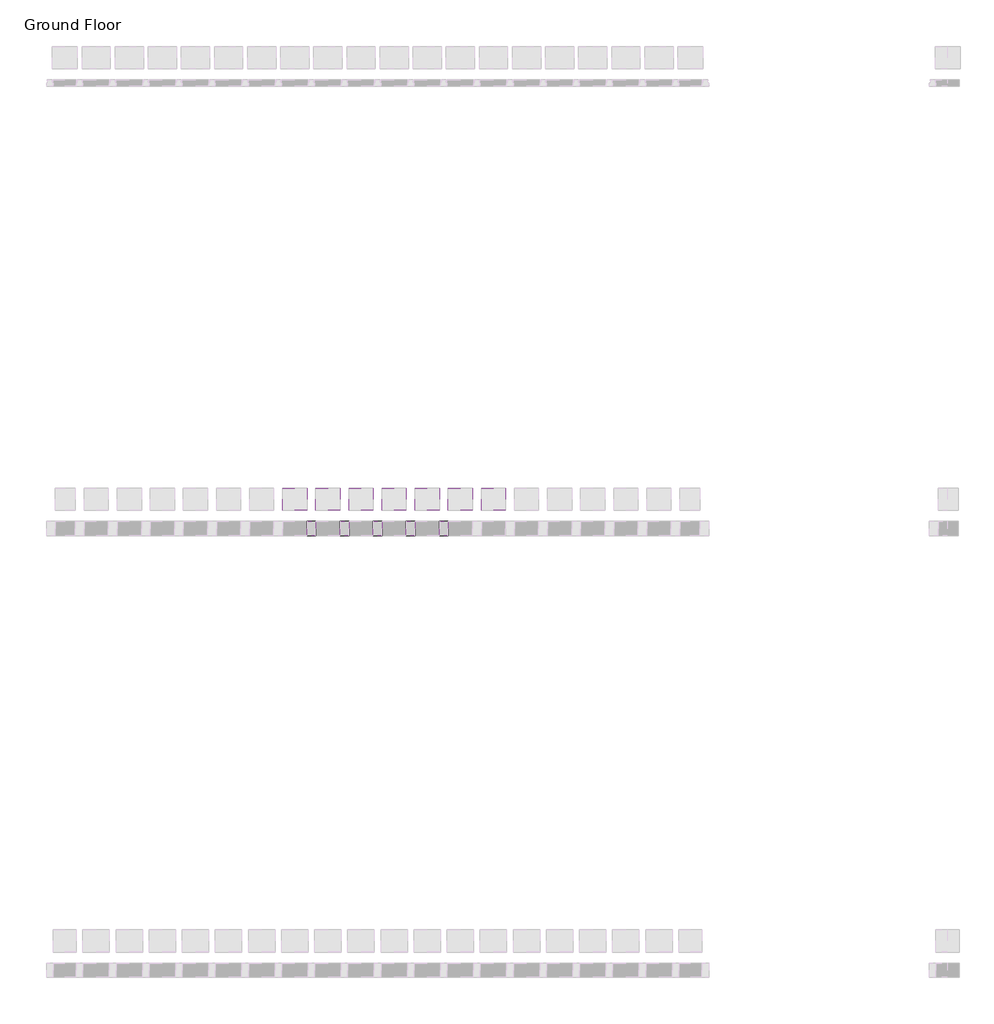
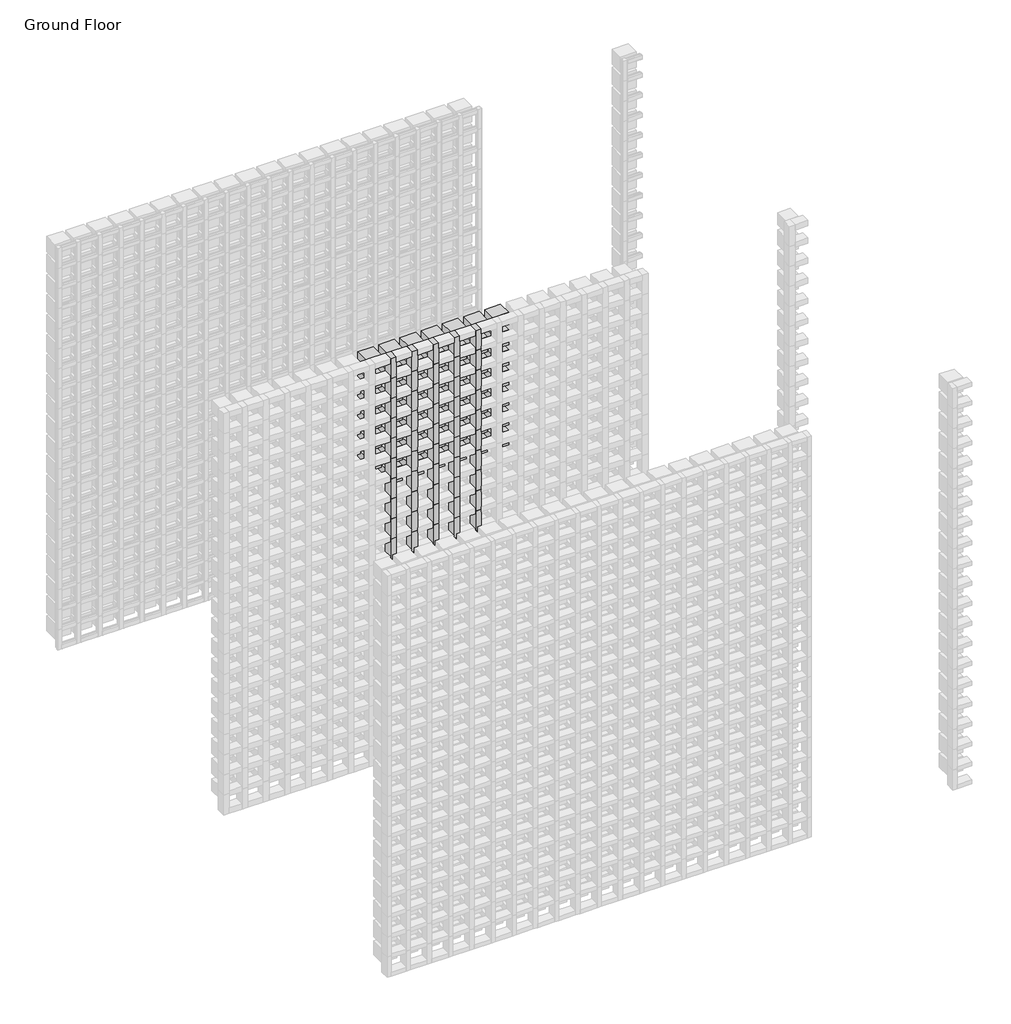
# One storey, part 98 of 350: 95 members, 48 plates.
"""IFC4 building model written with IfcOpenShell, lengths in millimetres."""

from ifc_helpers import new_model, si_unit, origin, place, context, project, spatial, transform, mapped, element, save
from components import rectangular_mullion_655930e9, empty_system_panel_empty_3b500fad, empty_system_panel_empty_1faefc6a

model = new_model("IFC4")

# Units and contexts
model_context = context("Model", 3, world=origin())
ifc_project = project(units=[si_unit("LENGTHUNIT", "METRE", prefix="MILLI")], contexts=[model_context])

# Site, building, storey
site = spatial("IfcSite", under=ifc_project)
building = spatial("IfcBuilding", under=site)
storey = spatial("IfcBuildingStorey", under=building, Name="Ground Floor", Elevation=0.0)

# Members
placement = place(None, origin())
rectangular_mullion_shape = rectangular_mullion_655930e9(model_context)
element("IfcMember", 1, ObjectType="Rectangular Mullion : Batten_Timber_Modinex_Austratus_Grid_Fascia_40x65_Blackbutt", at=placement, inside=storey, context=model_context, shape_type="MappedRepresentation", body=[
    mapped(rectangular_mullion_shape, transform((7116.4361642, 40968.2978302, 150.0), x_axis=(1.0, 0.0, 0.0), y_axis=(0.0, -1.0, 0.0), z_axis=(0.0, 0.0, -1.0))),
])
element("IfcMember", 2, ObjectType="Rectangular Mullion : Batten_Timber_Modinex_Austratus_Grid_Fascia_40x65_Blackbutt", at=placement, inside=storey, context=model_context, shape_type="MappedRepresentation", body=[
    mapped(rectangular_mullion_shape, transform((7116.4361642, 40968.2978302, 300.0), x_axis=(1.0, 0.0, 0.0), y_axis=(0.0, -1.0, 0.0), z_axis=(0.0, 0.0, -1.0))),
])
element("IfcMember", 3, ObjectType="Rectangular Mullion : Batten_Timber_Modinex_Austratus_Grid_Fascia_40x65_Blackbutt", at=placement, inside=storey, context=model_context, shape_type="MappedRepresentation", body=[
    mapped(rectangular_mullion_shape, transform((7116.4361642, 40968.2978302, 450.0), x_axis=(1.0, 0.0, 0.0), y_axis=(0.0, -1.0, 0.0), z_axis=(0.0, 0.0, -1.0))),
])
element("IfcMember", 4, ObjectType="Rectangular Mullion : Batten_Timber_Modinex_Austratus_Grid_Fascia_40x65_Blackbutt", at=placement, inside=storey, context=model_context, shape_type="MappedRepresentation", body=[
    mapped(rectangular_mullion_shape, transform((7116.4361642, 40968.2978302, 600.0), x_axis=(1.0, 0.0, 0.0), y_axis=(0.0, -1.0, 0.0), z_axis=(0.0, 0.0, -1.0))),
])
element("IfcMember", 5, ObjectType="Rectangular Mullion : Batten_Timber_Modinex_Austratus_Grid_Fascia_40x65_Blackbutt", at=placement, inside=storey, context=model_context, shape_type="MappedRepresentation", body=[
    mapped(rectangular_mullion_shape, transform((7116.4361642, 40968.2978302, 750.0), x_axis=(1.0, 0.0, 0.0), y_axis=(0.0, -1.0, 0.0), z_axis=(0.0, 0.0, -1.0))),
])
element("IfcMember", 6, ObjectType="Rectangular Mullion : Batten_Timber_Modinex_Austratus_Grid_Fascia_40x65_Blackbutt", at=placement, inside=storey, context=model_context, shape_type="MappedRepresentation", body=[
    mapped(rectangular_mullion_shape, transform((7116.4361642, 40968.2978302, 900.0), x_axis=(1.0, 0.0, 0.0), y_axis=(0.0, -1.0, 0.0), z_axis=(0.0, 0.0, -1.0))),
])
element("IfcMember", 7, ObjectType="Rectangular Mullion : Batten_Timber_Modinex_Austratus_Grid_Fascia_40x65_Blackbutt", at=placement, inside=storey, context=model_context, shape_type="MappedRepresentation", body=[
    mapped(rectangular_mullion_shape, transform((7116.4361642, 40968.2978302, 1050.0), x_axis=(1.0, 0.0, 0.0), y_axis=(0.0, -1.0, 0.0), z_axis=(0.0, 0.0, -1.0))),
])
element("IfcMember", 8, ObjectType="Rectangular Mullion : Batten_Timber_Modinex_Austratus_Grid_Fascia_40x65_Blackbutt", at=placement, inside=storey, context=model_context, shape_type="MappedRepresentation", body=[
    mapped(rectangular_mullion_shape, transform((7116.4361642, 40968.2978302, 1200.0), x_axis=(1.0, 0.0, 0.0), y_axis=(0.0, -1.0, 0.0), z_axis=(0.0, 0.0, -1.0))),
])
element("IfcMember", 9, ObjectType="Rectangular Mullion : Batten_Timber_Modinex_Austratus_Grid_Fascia_40x65_Blackbutt", at=placement, inside=storey, context=model_context, shape_type="MappedRepresentation", body=[
    mapped(rectangular_mullion_shape, transform((7116.4361642, 40968.2978302, 1350.0), x_axis=(1.0, 0.0, 0.0), y_axis=(0.0, -1.0, 0.0), z_axis=(0.0, 0.0, -1.0))),
])
element("IfcMember", 10, ObjectType="Rectangular Mullion : Batten_Timber_Modinex_Austratus_Grid_Fascia_40x65_Blackbutt", at=placement, inside=storey, context=model_context, shape_type="MappedRepresentation", body=[
    mapped(rectangular_mullion_shape, transform((7116.4361642, 40968.2978302, 1500.0), x_axis=(1.0, 0.0, 0.0), y_axis=(0.0, -1.0, 0.0), z_axis=(0.0, 0.0, -1.0))),
])
element("IfcMember", 11, ObjectType="Rectangular Mullion : Batten_Timber_Modinex_Austratus_Grid_Fascia_40x65_Blackbutt", at=placement, inside=storey, context=model_context, shape_type="MappedRepresentation", body=[
    mapped(rectangular_mullion_shape, transform((7116.4361642, 40968.2978302, 1650.0), x_axis=(1.0, 0.0, 0.0), y_axis=(0.0, -1.0, 0.0), z_axis=(0.0, 0.0, -1.0))),
])
element("IfcMember", 12, ObjectType="Rectangular Mullion : Batten_Timber_Modinex_Austratus_Grid_Fascia_40x65_Blackbutt", at=placement, inside=storey, context=model_context, shape_type="MappedRepresentation", body=[
    mapped(rectangular_mullion_shape, transform((7116.4361642, 40968.2978302, 1800.0), x_axis=(1.0, 0.0, 0.0), y_axis=(0.0, -1.0, 0.0), z_axis=(0.0, 0.0, -1.0))),
])
element("IfcMember", 13, ObjectType="Rectangular Mullion : Batten_Timber_Modinex_Austratus_Grid_Fascia_40x65_Blackbutt", at=placement, inside=storey, context=model_context, shape_type="MappedRepresentation", body=[
    mapped(rectangular_mullion_shape, transform((7116.4361642, 40968.2978302, 1950.0), x_axis=(1.0, 0.0, 0.0), y_axis=(0.0, -1.0, 0.0), z_axis=(0.0, 0.0, -1.0))),
])
element("IfcMember", 14, ObjectType="Rectangular Mullion : Batten_Timber_Modinex_Austratus_Grid_Fascia_40x65_Blackbutt", at=placement, inside=storey, context=model_context, shape_type="MappedRepresentation", body=[
    mapped(rectangular_mullion_shape, transform((7116.4361642, 40968.2978302, 2100.0), x_axis=(1.0, 0.0, 0.0), y_axis=(0.0, -1.0, 0.0), z_axis=(0.0, 0.0, -1.0))),
])
element("IfcMember", 15, ObjectType="Rectangular Mullion : Batten_Timber_Modinex_Austratus_Grid_Fascia_40x65_Blackbutt", at=placement, inside=storey, context=model_context, shape_type="MappedRepresentation", body=[
    mapped(rectangular_mullion_shape, transform((7116.4361642, 40968.2978302, 2250.0), x_axis=(1.0, 0.0, 0.0), y_axis=(0.0, -1.0, 0.0), z_axis=(0.0, 0.0, -1.0))),
])
element("IfcMember", 16, ObjectType="Rectangular Mullion : Batten_Timber_Modinex_Austratus_Grid_Fascia_40x65_Blackbutt", at=placement, inside=storey, context=model_context, shape_type="MappedRepresentation", body=[
    mapped(rectangular_mullion_shape, transform((7116.4361642, 40968.2978302, 2400.0), x_axis=(1.0, 0.0, 0.0), y_axis=(0.0, -1.0, 0.0), z_axis=(0.0, 0.0, -1.0))),
])
element("IfcMember", 17, ObjectType="Rectangular Mullion : Batten_Timber_Modinex_Austratus_Grid_Fascia_40x65_Blackbutt", at=placement, inside=storey, context=model_context, shape_type="MappedRepresentation", body=[
    mapped(rectangular_mullion_shape, transform((7116.4361642, 40968.2978302, 2550.0), x_axis=(1.0, 0.0, 0.0), y_axis=(0.0, -1.0, 0.0), z_axis=(0.0, 0.0, -1.0))),
])
element("IfcMember", 18, ObjectType="Rectangular Mullion : Batten_Timber_Modinex_Austratus_Grid_Fascia_40x65_Blackbutt", at=placement, inside=storey, context=model_context, shape_type="MappedRepresentation", body=[
    mapped(rectangular_mullion_shape, transform((7116.4361642, 40968.2978302, 2700.0), x_axis=(1.0, 0.0, 0.0), y_axis=(0.0, -1.0, 0.0), z_axis=(0.0, 0.0, -1.0))),
])
element("IfcMember", 19, ObjectType="Rectangular Mullion : Batten_Timber_Modinex_Austratus_Grid_Fascia_40x65_Blackbutt", at=placement, inside=storey, context=model_context, shape_type="MappedRepresentation", body=[
    mapped(rectangular_mullion_shape, transform((7266.4361642, 40968.2978302, 150.0), x_axis=(1.0, 0.0, 0.0), y_axis=(0.0, -1.0, 0.0), z_axis=(0.0, 0.0, -1.0))),
])
element("IfcMember", 20, ObjectType="Rectangular Mullion : Batten_Timber_Modinex_Austratus_Grid_Fascia_40x65_Blackbutt", at=placement, inside=storey, context=model_context, shape_type="MappedRepresentation", body=[
    mapped(rectangular_mullion_shape, transform((7266.4361642, 40968.2978302, 300.0), x_axis=(1.0, 0.0, 0.0), y_axis=(0.0, -1.0, 0.0), z_axis=(0.0, 0.0, -1.0))),
])
element("IfcMember", 21, ObjectType="Rectangular Mullion : Batten_Timber_Modinex_Austratus_Grid_Fascia_40x65_Blackbutt", at=placement, inside=storey, context=model_context, shape_type="MappedRepresentation", body=[
    mapped(rectangular_mullion_shape, transform((7266.4361642, 40968.2978302, 450.0), x_axis=(1.0, 0.0, 0.0), y_axis=(0.0, -1.0, 0.0), z_axis=(0.0, 0.0, -1.0))),
])
element("IfcMember", 22, ObjectType="Rectangular Mullion : Batten_Timber_Modinex_Austratus_Grid_Fascia_40x65_Blackbutt", at=placement, inside=storey, context=model_context, shape_type="MappedRepresentation", body=[
    mapped(rectangular_mullion_shape, transform((7266.4361642, 40968.2978302, 600.0), x_axis=(1.0, 0.0, 0.0), y_axis=(0.0, -1.0, 0.0), z_axis=(0.0, 0.0, -1.0))),
])
element("IfcMember", 23, ObjectType="Rectangular Mullion : Batten_Timber_Modinex_Austratus_Grid_Fascia_40x65_Blackbutt", at=placement, inside=storey, context=model_context, shape_type="MappedRepresentation", body=[
    mapped(rectangular_mullion_shape, transform((7266.4361642, 40968.2978302, 750.0), x_axis=(1.0, 0.0, 0.0), y_axis=(0.0, -1.0, 0.0), z_axis=(0.0, 0.0, -1.0))),
])
element("IfcMember", 24, ObjectType="Rectangular Mullion : Batten_Timber_Modinex_Austratus_Grid_Fascia_40x65_Blackbutt", at=placement, inside=storey, context=model_context, shape_type="MappedRepresentation", body=[
    mapped(rectangular_mullion_shape, transform((7266.4361642, 40968.2978302, 900.0), x_axis=(1.0, 0.0, 0.0), y_axis=(0.0, -1.0, 0.0), z_axis=(0.0, 0.0, -1.0))),
])
element("IfcMember", 25, ObjectType="Rectangular Mullion : Batten_Timber_Modinex_Austratus_Grid_Fascia_40x65_Blackbutt", at=placement, inside=storey, context=model_context, shape_type="MappedRepresentation", body=[
    mapped(rectangular_mullion_shape, transform((7266.4361642, 40968.2978302, 1050.0), x_axis=(1.0, 0.0, 0.0), y_axis=(0.0, -1.0, 0.0), z_axis=(0.0, 0.0, -1.0))),
])
element("IfcMember", 26, ObjectType="Rectangular Mullion : Batten_Timber_Modinex_Austratus_Grid_Fascia_40x65_Blackbutt", at=placement, inside=storey, context=model_context, shape_type="MappedRepresentation", body=[
    mapped(rectangular_mullion_shape, transform((7266.4361642, 40968.2978302, 1200.0), x_axis=(1.0, 0.0, 0.0), y_axis=(0.0, -1.0, 0.0), z_axis=(0.0, 0.0, -1.0))),
])
element("IfcMember", 27, ObjectType="Rectangular Mullion : Batten_Timber_Modinex_Austratus_Grid_Fascia_40x65_Blackbutt", at=placement, inside=storey, context=model_context, shape_type="MappedRepresentation", body=[
    mapped(rectangular_mullion_shape, transform((7266.4361642, 40968.2978302, 1350.0), x_axis=(1.0, 0.0, 0.0), y_axis=(0.0, -1.0, 0.0), z_axis=(0.0, 0.0, -1.0))),
])
element("IfcMember", 28, ObjectType="Rectangular Mullion : Batten_Timber_Modinex_Austratus_Grid_Fascia_40x65_Blackbutt", at=placement, inside=storey, context=model_context, shape_type="MappedRepresentation", body=[
    mapped(rectangular_mullion_shape, transform((7266.4361642, 40968.2978302, 1500.0), x_axis=(1.0, 0.0, 0.0), y_axis=(0.0, -1.0, 0.0), z_axis=(0.0, 0.0, -1.0))),
])
element("IfcMember", 29, ObjectType="Rectangular Mullion : Batten_Timber_Modinex_Austratus_Grid_Fascia_40x65_Blackbutt", at=placement, inside=storey, context=model_context, shape_type="MappedRepresentation", body=[
    mapped(rectangular_mullion_shape, transform((7266.4361642, 40968.2978302, 1650.0), x_axis=(1.0, 0.0, 0.0), y_axis=(0.0, -1.0, 0.0), z_axis=(0.0, 0.0, -1.0))),
])
element("IfcMember", 30, ObjectType="Rectangular Mullion : Batten_Timber_Modinex_Austratus_Grid_Fascia_40x65_Blackbutt", at=placement, inside=storey, context=model_context, shape_type="MappedRepresentation", body=[
    mapped(rectangular_mullion_shape, transform((7266.4361642, 40968.2978302, 1800.0), x_axis=(1.0, 0.0, 0.0), y_axis=(0.0, -1.0, 0.0), z_axis=(0.0, 0.0, -1.0))),
])
element("IfcMember", 31, ObjectType="Rectangular Mullion : Batten_Timber_Modinex_Austratus_Grid_Fascia_40x65_Blackbutt", at=placement, inside=storey, context=model_context, shape_type="MappedRepresentation", body=[
    mapped(rectangular_mullion_shape, transform((7266.4361642, 40968.2978302, 1950.0), x_axis=(1.0, 0.0, 0.0), y_axis=(0.0, -1.0, 0.0), z_axis=(0.0, 0.0, -1.0))),
])
element("IfcMember", 32, ObjectType="Rectangular Mullion : Batten_Timber_Modinex_Austratus_Grid_Fascia_40x65_Blackbutt", at=placement, inside=storey, context=model_context, shape_type="MappedRepresentation", body=[
    mapped(rectangular_mullion_shape, transform((7266.4361642, 40968.2978302, 2100.0), x_axis=(1.0, 0.0, 0.0), y_axis=(0.0, -1.0, 0.0), z_axis=(0.0, 0.0, -1.0))),
])
element("IfcMember", 33, ObjectType="Rectangular Mullion : Batten_Timber_Modinex_Austratus_Grid_Fascia_40x65_Blackbutt", at=placement, inside=storey, context=model_context, shape_type="MappedRepresentation", body=[
    mapped(rectangular_mullion_shape, transform((7266.4361642, 40968.2978302, 2250.0), x_axis=(1.0, 0.0, 0.0), y_axis=(0.0, -1.0, 0.0), z_axis=(0.0, 0.0, -1.0))),
])
element("IfcMember", 34, ObjectType="Rectangular Mullion : Batten_Timber_Modinex_Austratus_Grid_Fascia_40x65_Blackbutt", at=placement, inside=storey, context=model_context, shape_type="MappedRepresentation", body=[
    mapped(rectangular_mullion_shape, transform((7266.4361642, 40968.2978302, 2400.0), x_axis=(1.0, 0.0, 0.0), y_axis=(0.0, -1.0, 0.0), z_axis=(0.0, 0.0, -1.0))),
])
element("IfcMember", 35, ObjectType="Rectangular Mullion : Batten_Timber_Modinex_Austratus_Grid_Fascia_40x65_Blackbutt", at=placement, inside=storey, context=model_context, shape_type="MappedRepresentation", body=[
    mapped(rectangular_mullion_shape, transform((7266.4361642, 40968.2978302, 2550.0), x_axis=(1.0, 0.0, 0.0), y_axis=(0.0, -1.0, 0.0), z_axis=(0.0, 0.0, -1.0))),
])
element("IfcMember", 36, ObjectType="Rectangular Mullion : Batten_Timber_Modinex_Austratus_Grid_Fascia_40x65_Blackbutt", at=placement, inside=storey, context=model_context, shape_type="MappedRepresentation", body=[
    mapped(rectangular_mullion_shape, transform((7266.4361642, 40968.2978302, 2700.0), x_axis=(1.0, 0.0, 0.0), y_axis=(0.0, -1.0, 0.0), z_axis=(0.0, 0.0, -1.0))),
])
element("IfcMember", 37, ObjectType="Rectangular Mullion : Batten_Timber_Modinex_Austratus_Grid_Fascia_40x65_Blackbutt", at=placement, inside=storey, context=model_context, shape_type="MappedRepresentation", body=[
    mapped(rectangular_mullion_shape, transform((7416.4361642, 40968.2978302, 150.0), x_axis=(1.0, 0.0, 0.0), y_axis=(0.0, -1.0, 0.0), z_axis=(0.0, 0.0, -1.0))),
])
element("IfcMember", 38, ObjectType="Rectangular Mullion : Batten_Timber_Modinex_Austratus_Grid_Fascia_40x65_Blackbutt", at=placement, inside=storey, context=model_context, shape_type="MappedRepresentation", body=[
    mapped(rectangular_mullion_shape, transform((7416.4361642, 40968.2978302, 300.0), x_axis=(1.0, 0.0, 0.0), y_axis=(0.0, -1.0, 0.0), z_axis=(0.0, 0.0, -1.0))),
])
element("IfcMember", 39, ObjectType="Rectangular Mullion : Batten_Timber_Modinex_Austratus_Grid_Fascia_40x65_Blackbutt", at=placement, inside=storey, context=model_context, shape_type="MappedRepresentation", body=[
    mapped(rectangular_mullion_shape, transform((7416.4361642, 40968.2978302, 450.0), x_axis=(1.0, 0.0, 0.0), y_axis=(0.0, -1.0, 0.0), z_axis=(0.0, 0.0, -1.0))),
])
element("IfcMember", 40, ObjectType="Rectangular Mullion : Batten_Timber_Modinex_Austratus_Grid_Fascia_40x65_Blackbutt", at=placement, inside=storey, context=model_context, shape_type="MappedRepresentation", body=[
    mapped(rectangular_mullion_shape, transform((7416.4361642, 40968.2978302, 600.0), x_axis=(1.0, 0.0, 0.0), y_axis=(0.0, -1.0, 0.0), z_axis=(0.0, 0.0, -1.0))),
])
element("IfcMember", 41, ObjectType="Rectangular Mullion : Batten_Timber_Modinex_Austratus_Grid_Fascia_40x65_Blackbutt", at=placement, inside=storey, context=model_context, shape_type="MappedRepresentation", body=[
    mapped(rectangular_mullion_shape, transform((7416.4361642, 40968.2978302, 750.0), x_axis=(1.0, 0.0, 0.0), y_axis=(0.0, -1.0, 0.0), z_axis=(0.0, 0.0, -1.0))),
])
element("IfcMember", 42, ObjectType="Rectangular Mullion : Batten_Timber_Modinex_Austratus_Grid_Fascia_40x65_Blackbutt", at=placement, inside=storey, context=model_context, shape_type="MappedRepresentation", body=[
    mapped(rectangular_mullion_shape, transform((7416.4361642, 40968.2978302, 900.0), x_axis=(1.0, 0.0, 0.0), y_axis=(0.0, -1.0, 0.0), z_axis=(0.0, 0.0, -1.0))),
])
element("IfcMember", 43, ObjectType="Rectangular Mullion : Batten_Timber_Modinex_Austratus_Grid_Fascia_40x65_Blackbutt", at=placement, inside=storey, context=model_context, shape_type="MappedRepresentation", body=[
    mapped(rectangular_mullion_shape, transform((7416.4361642, 40968.2978302, 1050.0), x_axis=(1.0, 0.0, 0.0), y_axis=(0.0, -1.0, 0.0), z_axis=(0.0, 0.0, -1.0))),
])
element("IfcMember", 44, ObjectType="Rectangular Mullion : Batten_Timber_Modinex_Austratus_Grid_Fascia_40x65_Blackbutt", at=placement, inside=storey, context=model_context, shape_type="MappedRepresentation", body=[
    mapped(rectangular_mullion_shape, transform((7416.4361642, 40968.2978302, 1200.0), x_axis=(1.0, 0.0, 0.0), y_axis=(0.0, -1.0, 0.0), z_axis=(0.0, 0.0, -1.0))),
])
element("IfcMember", 45, ObjectType="Rectangular Mullion : Batten_Timber_Modinex_Austratus_Grid_Fascia_40x65_Blackbutt", at=placement, inside=storey, context=model_context, shape_type="MappedRepresentation", body=[
    mapped(rectangular_mullion_shape, transform((7416.4361642, 40968.2978302, 1350.0), x_axis=(1.0, 0.0, 0.0), y_axis=(0.0, -1.0, 0.0), z_axis=(0.0, 0.0, -1.0))),
])
element("IfcMember", 46, ObjectType="Rectangular Mullion : Batten_Timber_Modinex_Austratus_Grid_Fascia_40x65_Blackbutt", at=placement, inside=storey, context=model_context, shape_type="MappedRepresentation", body=[
    mapped(rectangular_mullion_shape, transform((7416.4361642, 40968.2978302, 1500.0), x_axis=(1.0, 0.0, 0.0), y_axis=(0.0, -1.0, 0.0), z_axis=(0.0, 0.0, -1.0))),
])
element("IfcMember", 47, ObjectType="Rectangular Mullion : Batten_Timber_Modinex_Austratus_Grid_Fascia_40x65_Blackbutt", at=placement, inside=storey, context=model_context, shape_type="MappedRepresentation", body=[
    mapped(rectangular_mullion_shape, transform((7416.4361642, 40968.2978302, 1650.0), x_axis=(1.0, 0.0, 0.0), y_axis=(0.0, -1.0, 0.0), z_axis=(0.0, 0.0, -1.0))),
])
element("IfcMember", 48, ObjectType="Rectangular Mullion : Batten_Timber_Modinex_Austratus_Grid_Fascia_40x65_Blackbutt", at=placement, inside=storey, context=model_context, shape_type="MappedRepresentation", body=[
    mapped(rectangular_mullion_shape, transform((7416.4361642, 40968.2978302, 1800.0), x_axis=(1.0, 0.0, 0.0), y_axis=(0.0, -1.0, 0.0), z_axis=(0.0, 0.0, -1.0))),
])
element("IfcMember", 49, ObjectType="Rectangular Mullion : Batten_Timber_Modinex_Austratus_Grid_Fascia_40x65_Blackbutt", at=placement, inside=storey, context=model_context, shape_type="MappedRepresentation", body=[
    mapped(rectangular_mullion_shape, transform((7416.4361642, 40968.2978302, 1950.0), x_axis=(1.0, 0.0, 0.0), y_axis=(0.0, -1.0, 0.0), z_axis=(0.0, 0.0, -1.0))),
])
element("IfcMember", 50, ObjectType="Rectangular Mullion : Batten_Timber_Modinex_Austratus_Grid_Fascia_40x65_Blackbutt", at=placement, inside=storey, context=model_context, shape_type="MappedRepresentation", body=[
    mapped(rectangular_mullion_shape, transform((7416.4361642, 40968.2978302, 2100.0), x_axis=(1.0, 0.0, 0.0), y_axis=(0.0, -1.0, 0.0), z_axis=(0.0, 0.0, -1.0))),
])
element("IfcMember", 51, ObjectType="Rectangular Mullion : Batten_Timber_Modinex_Austratus_Grid_Fascia_40x65_Blackbutt", at=placement, inside=storey, context=model_context, shape_type="MappedRepresentation", body=[
    mapped(rectangular_mullion_shape, transform((7416.4361642, 40968.2978302, 2250.0), x_axis=(1.0, 0.0, 0.0), y_axis=(0.0, -1.0, 0.0), z_axis=(0.0, 0.0, -1.0))),
])
element("IfcMember", 52, ObjectType="Rectangular Mullion : Batten_Timber_Modinex_Austratus_Grid_Fascia_40x65_Blackbutt", at=placement, inside=storey, context=model_context, shape_type="MappedRepresentation", body=[
    mapped(rectangular_mullion_shape, transform((7416.4361642, 40968.2978302, 2400.0), x_axis=(1.0, 0.0, 0.0), y_axis=(0.0, -1.0, 0.0), z_axis=(0.0, 0.0, -1.0))),
])
element("IfcMember", 53, ObjectType="Rectangular Mullion : Batten_Timber_Modinex_Austratus_Grid_Fascia_40x65_Blackbutt", at=placement, inside=storey, context=model_context, shape_type="MappedRepresentation", body=[
    mapped(rectangular_mullion_shape, transform((7416.4361642, 40968.2978302, 2550.0), x_axis=(1.0, 0.0, 0.0), y_axis=(0.0, -1.0, 0.0), z_axis=(0.0, 0.0, -1.0))),
])
element("IfcMember", 54, ObjectType="Rectangular Mullion : Batten_Timber_Modinex_Austratus_Grid_Fascia_40x65_Blackbutt", at=placement, inside=storey, context=model_context, shape_type="MappedRepresentation", body=[
    mapped(rectangular_mullion_shape, transform((7416.4361642, 40968.2978302, 2700.0), x_axis=(1.0, 0.0, 0.0), y_axis=(0.0, -1.0, 0.0), z_axis=(0.0, 0.0, -1.0))),
])
element("IfcMember", 55, ObjectType="Rectangular Mullion : Batten_Timber_Modinex_Austratus_Grid_Fascia_40x65_Blackbutt", at=placement, inside=storey, context=model_context, shape_type="MappedRepresentation", body=[
    mapped(rectangular_mullion_shape, transform((7566.4361642, 40968.2978302, 150.0), x_axis=(1.0, 0.0, 0.0), y_axis=(0.0, -1.0, 0.0), z_axis=(0.0, 0.0, -1.0))),
])
element("IfcMember", 56, ObjectType="Rectangular Mullion : Batten_Timber_Modinex_Austratus_Grid_Fascia_40x65_Blackbutt", at=placement, inside=storey, context=model_context, shape_type="MappedRepresentation", body=[
    mapped(rectangular_mullion_shape, transform((7566.4361642, 40968.2978302, 300.0), x_axis=(1.0, 0.0, 0.0), y_axis=(0.0, -1.0, 0.0), z_axis=(0.0, 0.0, -1.0))),
])
element("IfcMember", 57, ObjectType="Rectangular Mullion : Batten_Timber_Modinex_Austratus_Grid_Fascia_40x65_Blackbutt", at=placement, inside=storey, context=model_context, shape_type="MappedRepresentation", body=[
    mapped(rectangular_mullion_shape, transform((7566.4361642, 40968.2978302, 450.0), x_axis=(1.0, 0.0, 0.0), y_axis=(0.0, -1.0, 0.0), z_axis=(0.0, 0.0, -1.0))),
])
element("IfcMember", 58, ObjectType="Rectangular Mullion : Batten_Timber_Modinex_Austratus_Grid_Fascia_40x65_Blackbutt", at=placement, inside=storey, context=model_context, shape_type="MappedRepresentation", body=[
    mapped(rectangular_mullion_shape, transform((7566.4361642, 40968.2978302, 600.0), x_axis=(1.0, 0.0, 0.0), y_axis=(0.0, -1.0, 0.0), z_axis=(0.0, 0.0, -1.0))),
])
element("IfcMember", 59, ObjectType="Rectangular Mullion : Batten_Timber_Modinex_Austratus_Grid_Fascia_40x65_Blackbutt", at=placement, inside=storey, context=model_context, shape_type="MappedRepresentation", body=[
    mapped(rectangular_mullion_shape, transform((7566.4361642, 40968.2978302, 750.0), x_axis=(1.0, 0.0, 0.0), y_axis=(0.0, -1.0, 0.0), z_axis=(0.0, 0.0, -1.0))),
])
element("IfcMember", 60, ObjectType="Rectangular Mullion : Batten_Timber_Modinex_Austratus_Grid_Fascia_40x65_Blackbutt", at=placement, inside=storey, context=model_context, shape_type="MappedRepresentation", body=[
    mapped(rectangular_mullion_shape, transform((7566.4361642, 40968.2978302, 900.0), x_axis=(1.0, 0.0, 0.0), y_axis=(0.0, -1.0, 0.0), z_axis=(0.0, 0.0, -1.0))),
])
element("IfcMember", 61, ObjectType="Rectangular Mullion : Batten_Timber_Modinex_Austratus_Grid_Fascia_40x65_Blackbutt", at=placement, inside=storey, context=model_context, shape_type="MappedRepresentation", body=[
    mapped(rectangular_mullion_shape, transform((7566.4361642, 40968.2978302, 1050.0), x_axis=(1.0, 0.0, 0.0), y_axis=(0.0, -1.0, 0.0), z_axis=(0.0, 0.0, -1.0))),
])
element("IfcMember", 62, ObjectType="Rectangular Mullion : Batten_Timber_Modinex_Austratus_Grid_Fascia_40x65_Blackbutt", at=placement, inside=storey, context=model_context, shape_type="MappedRepresentation", body=[
    mapped(rectangular_mullion_shape, transform((7566.4361642, 40968.2978302, 1200.0), x_axis=(1.0, 0.0, 0.0), y_axis=(0.0, -1.0, 0.0), z_axis=(0.0, 0.0, -1.0))),
])
element("IfcMember", 63, ObjectType="Rectangular Mullion : Batten_Timber_Modinex_Austratus_Grid_Fascia_40x65_Blackbutt", at=placement, inside=storey, context=model_context, shape_type="MappedRepresentation", body=[
    mapped(rectangular_mullion_shape, transform((7566.4361642, 40968.2978302, 1350.0), x_axis=(1.0, 0.0, 0.0), y_axis=(0.0, -1.0, 0.0), z_axis=(0.0, 0.0, -1.0))),
])
element("IfcMember", 64, ObjectType="Rectangular Mullion : Batten_Timber_Modinex_Austratus_Grid_Fascia_40x65_Blackbutt", at=placement, inside=storey, context=model_context, shape_type="MappedRepresentation", body=[
    mapped(rectangular_mullion_shape, transform((7566.4361642, 40968.2978302, 1500.0), x_axis=(1.0, 0.0, 0.0), y_axis=(0.0, -1.0, 0.0), z_axis=(0.0, 0.0, -1.0))),
])
element("IfcMember", 65, ObjectType="Rectangular Mullion : Batten_Timber_Modinex_Austratus_Grid_Fascia_40x65_Blackbutt", at=placement, inside=storey, context=model_context, shape_type="MappedRepresentation", body=[
    mapped(rectangular_mullion_shape, transform((7566.4361642, 40968.2978302, 1650.0), x_axis=(1.0, 0.0, 0.0), y_axis=(0.0, -1.0, 0.0), z_axis=(0.0, 0.0, -1.0))),
])
element("IfcMember", 66, ObjectType="Rectangular Mullion : Batten_Timber_Modinex_Austratus_Grid_Fascia_40x65_Blackbutt", at=placement, inside=storey, context=model_context, shape_type="MappedRepresentation", body=[
    mapped(rectangular_mullion_shape, transform((7566.4361642, 40968.2978302, 1800.0), x_axis=(1.0, 0.0, 0.0), y_axis=(0.0, -1.0, 0.0), z_axis=(0.0, 0.0, -1.0))),
])
element("IfcMember", 67, ObjectType="Rectangular Mullion : Batten_Timber_Modinex_Austratus_Grid_Fascia_40x65_Blackbutt", at=placement, inside=storey, context=model_context, shape_type="MappedRepresentation", body=[
    mapped(rectangular_mullion_shape, transform((7566.4361642, 40968.2978302, 1950.0), x_axis=(1.0, 0.0, 0.0), y_axis=(0.0, -1.0, 0.0), z_axis=(0.0, 0.0, -1.0))),
])
element("IfcMember", 68, ObjectType="Rectangular Mullion : Batten_Timber_Modinex_Austratus_Grid_Fascia_40x65_Blackbutt", at=placement, inside=storey, context=model_context, shape_type="MappedRepresentation", body=[
    mapped(rectangular_mullion_shape, transform((7566.4361642, 40968.2978302, 2100.0), x_axis=(1.0, 0.0, 0.0), y_axis=(0.0, -1.0, 0.0), z_axis=(0.0, 0.0, -1.0))),
])
element("IfcMember", 69, ObjectType="Rectangular Mullion : Batten_Timber_Modinex_Austratus_Grid_Fascia_40x65_Blackbutt", at=placement, inside=storey, context=model_context, shape_type="MappedRepresentation", body=[
    mapped(rectangular_mullion_shape, transform((7566.4361642, 40968.2978302, 2250.0), x_axis=(1.0, 0.0, 0.0), y_axis=(0.0, -1.0, 0.0), z_axis=(0.0, 0.0, -1.0))),
])
element("IfcMember", 70, ObjectType="Rectangular Mullion : Batten_Timber_Modinex_Austratus_Grid_Fascia_40x65_Blackbutt", at=placement, inside=storey, context=model_context, shape_type="MappedRepresentation", body=[
    mapped(rectangular_mullion_shape, transform((7566.4361642, 40968.2978302, 2400.0), x_axis=(1.0, 0.0, 0.0), y_axis=(0.0, -1.0, 0.0), z_axis=(0.0, 0.0, -1.0))),
])
element("IfcMember", 71, ObjectType="Rectangular Mullion : Batten_Timber_Modinex_Austratus_Grid_Fascia_40x65_Blackbutt", at=placement, inside=storey, context=model_context, shape_type="MappedRepresentation", body=[
    mapped(rectangular_mullion_shape, transform((7566.4361642, 40968.2978302, 2550.0), x_axis=(1.0, 0.0, 0.0), y_axis=(0.0, -1.0, 0.0), z_axis=(0.0, 0.0, -1.0))),
])
element("IfcMember", 72, ObjectType="Rectangular Mullion : Batten_Timber_Modinex_Austratus_Grid_Fascia_40x65_Blackbutt", at=placement, inside=storey, context=model_context, shape_type="MappedRepresentation", body=[
    mapped(rectangular_mullion_shape, transform((7566.4361642, 40968.2978302, 2700.0), x_axis=(1.0, 0.0, 0.0), y_axis=(0.0, -1.0, 0.0), z_axis=(0.0, 0.0, -1.0))),
])
element("IfcMember", 73, ObjectType="Rectangular Mullion : Batten_Timber_Modinex_Austratus_Grid_Fascia_40x65_Blackbutt", at=placement, inside=storey, context=model_context, shape_type="MappedRepresentation", body=[
    mapped(rectangular_mullion_shape, transform((7716.4361642, 40968.2978302, 150.0), x_axis=(1.0, 0.0, 0.0), y_axis=(0.0, -1.0, 0.0), z_axis=(0.0, 0.0, -1.0))),
])
element("IfcMember", 74, ObjectType="Rectangular Mullion : Batten_Timber_Modinex_Austratus_Grid_Fascia_40x65_Blackbutt", at=placement, inside=storey, context=model_context, shape_type="MappedRepresentation", body=[
    mapped(rectangular_mullion_shape, transform((7716.4361642, 40968.2978302, 300.0), x_axis=(1.0, 0.0, 0.0), y_axis=(0.0, -1.0, 0.0), z_axis=(0.0, 0.0, -1.0))),
])
element("IfcMember", 75, ObjectType="Rectangular Mullion : Batten_Timber_Modinex_Austratus_Grid_Fascia_40x65_Blackbutt", at=placement, inside=storey, context=model_context, shape_type="MappedRepresentation", body=[
    mapped(rectangular_mullion_shape, transform((7716.4361642, 40968.2978302, 450.0), x_axis=(1.0, 0.0, 0.0), y_axis=(0.0, -1.0, 0.0), z_axis=(0.0, 0.0, -1.0))),
])
element("IfcMember", 76, ObjectType="Rectangular Mullion : Batten_Timber_Modinex_Austratus_Grid_Fascia_40x65_Blackbutt", at=placement, inside=storey, context=model_context, shape_type="MappedRepresentation", body=[
    mapped(rectangular_mullion_shape, transform((7716.4361642, 40968.2978302, 600.0), x_axis=(1.0, 0.0, 0.0), y_axis=(0.0, -1.0, 0.0), z_axis=(0.0, 0.0, -1.0))),
])
element("IfcMember", 77, ObjectType="Rectangular Mullion : Batten_Timber_Modinex_Austratus_Grid_Fascia_40x65_Blackbutt", at=placement, inside=storey, context=model_context, shape_type="MappedRepresentation", body=[
    mapped(rectangular_mullion_shape, transform((7716.4361642, 40968.2978302, 750.0), x_axis=(1.0, 0.0, 0.0), y_axis=(0.0, -1.0, 0.0), z_axis=(0.0, 0.0, -1.0))),
])
element("IfcMember", 78, ObjectType="Rectangular Mullion : Batten_Timber_Modinex_Austratus_Grid_Fascia_40x65_Blackbutt", at=placement, inside=storey, context=model_context, shape_type="MappedRepresentation", body=[
    mapped(rectangular_mullion_shape, transform((7716.4361642, 40968.2978302, 900.0), x_axis=(1.0, 0.0, 0.0), y_axis=(0.0, -1.0, 0.0), z_axis=(0.0, 0.0, -1.0))),
])
element("IfcMember", 79, ObjectType="Rectangular Mullion : Batten_Timber_Modinex_Austratus_Grid_Fascia_40x65_Blackbutt", at=placement, inside=storey, context=model_context, shape_type="MappedRepresentation", body=[
    mapped(rectangular_mullion_shape, transform((7716.4361642, 40968.2978302, 1050.0), x_axis=(1.0, 0.0, 0.0), y_axis=(0.0, -1.0, 0.0), z_axis=(0.0, 0.0, -1.0))),
])
element("IfcMember", 80, ObjectType="Rectangular Mullion : Batten_Timber_Modinex_Austratus_Grid_Fascia_40x65_Blackbutt", at=placement, inside=storey, context=model_context, shape_type="MappedRepresentation", body=[
    mapped(rectangular_mullion_shape, transform((7716.4361642, 40968.2978302, 1200.0), x_axis=(1.0, 0.0, 0.0), y_axis=(0.0, -1.0, 0.0), z_axis=(0.0, 0.0, -1.0))),
])
element("IfcMember", 81, ObjectType="Rectangular Mullion : Batten_Timber_Modinex_Austratus_Grid_Fascia_40x65_Blackbutt", at=placement, inside=storey, context=model_context, shape_type="MappedRepresentation", body=[
    mapped(rectangular_mullion_shape, transform((7716.4361642, 40968.2978302, 1350.0), x_axis=(1.0, 0.0, 0.0), y_axis=(0.0, -1.0, 0.0), z_axis=(0.0, 0.0, -1.0))),
])
element("IfcMember", 82, ObjectType="Rectangular Mullion : Batten_Timber_Modinex_Austratus_Grid_Fascia_40x65_Blackbutt", at=placement, inside=storey, context=model_context, shape_type="MappedRepresentation", body=[
    mapped(rectangular_mullion_shape, transform((7716.4361642, 40968.2978302, 1500.0), x_axis=(1.0, 0.0, 0.0), y_axis=(0.0, -1.0, 0.0), z_axis=(0.0, 0.0, -1.0))),
])
element("IfcMember", 83, ObjectType="Rectangular Mullion : Batten_Timber_Modinex_Austratus_Grid_Fascia_40x65_Blackbutt", at=placement, inside=storey, context=model_context, shape_type="MappedRepresentation", body=[
    mapped(rectangular_mullion_shape, transform((7716.4361642, 40968.2978302, 1650.0), x_axis=(1.0, 0.0, 0.0), y_axis=(0.0, -1.0, 0.0), z_axis=(0.0, 0.0, -1.0))),
])
element("IfcMember", 84, ObjectType="Rectangular Mullion : Batten_Timber_Modinex_Austratus_Grid_Fascia_40x65_Blackbutt", at=placement, inside=storey, context=model_context, shape_type="MappedRepresentation", body=[
    mapped(rectangular_mullion_shape, transform((7716.4361642, 40968.2978302, 1800.0), x_axis=(1.0, 0.0, 0.0), y_axis=(0.0, -1.0, 0.0), z_axis=(0.0, 0.0, -1.0))),
])
element("IfcMember", 85, ObjectType="Rectangular Mullion : Batten_Timber_Modinex_Austratus_Grid_Fascia_40x65_Blackbutt", at=placement, inside=storey, context=model_context, shape_type="MappedRepresentation", body=[
    mapped(rectangular_mullion_shape, transform((7716.4361642, 40968.2978302, 1950.0), x_axis=(1.0, 0.0, 0.0), y_axis=(0.0, -1.0, 0.0), z_axis=(0.0, 0.0, -1.0))),
])
element("IfcMember", 86, ObjectType="Rectangular Mullion : Batten_Timber_Modinex_Austratus_Grid_Fascia_40x65_Blackbutt", at=placement, inside=storey, context=model_context, shape_type="MappedRepresentation", body=[
    mapped(rectangular_mullion_shape, transform((7716.4361642, 40968.2978302, 2100.0), x_axis=(1.0, 0.0, 0.0), y_axis=(0.0, -1.0, 0.0), z_axis=(0.0, 0.0, -1.0))),
])
element("IfcMember", 87, ObjectType="Rectangular Mullion : Batten_Timber_Modinex_Austratus_Grid_Fascia_40x65_Blackbutt", at=placement, inside=storey, context=model_context, shape_type="MappedRepresentation", body=[
    mapped(rectangular_mullion_shape, transform((7716.4361642, 40968.2978302, 2250.0), x_axis=(1.0, 0.0, 0.0), y_axis=(0.0, -1.0, 0.0), z_axis=(0.0, 0.0, -1.0))),
])
element("IfcMember", 88, ObjectType="Rectangular Mullion : Batten_Timber_Modinex_Austratus_Grid_Fascia_40x65_Blackbutt", at=placement, inside=storey, context=model_context, shape_type="MappedRepresentation", body=[
    mapped(rectangular_mullion_shape, transform((7716.4361642, 40968.2978302, 2400.0), x_axis=(1.0, 0.0, 0.0), y_axis=(0.0, -1.0, 0.0), z_axis=(0.0, 0.0, -1.0))),
])
element("IfcMember", 89, ObjectType="Rectangular Mullion : Batten_Timber_Modinex_Austratus_Grid_Fascia_40x65_Blackbutt", at=placement, inside=storey, context=model_context, shape_type="MappedRepresentation", body=[
    mapped(rectangular_mullion_shape, transform((7716.4361642, 40968.2978302, 2550.0), x_axis=(1.0, 0.0, 0.0), y_axis=(0.0, -1.0, 0.0), z_axis=(0.0, 0.0, -1.0))),
])
element("IfcMember", 90, ObjectType="Rectangular Mullion : Batten_Timber_Modinex_Austratus_Grid_Fascia_40x65_Blackbutt", at=placement, inside=storey, context=model_context, shape_type="MappedRepresentation", body=[
    mapped(rectangular_mullion_shape, transform((7716.4361642, 40968.2978302, 2700.0), x_axis=(1.0, 0.0, 0.0), y_axis=(0.0, -1.0, 0.0), z_axis=(0.0, 0.0, -1.0))),
])
element("IfcMember", 91, ObjectType="Rectangular Mullion : Batten_Timber_Modinex_Austratus_Grid_Fascia_40x65_Blackbutt", at=placement, inside=storey, context=model_context, shape_type="MappedRepresentation", body=[
    mapped(rectangular_mullion_shape, transform((7116.4361642, 40968.2978302, 2850.0), x_axis=(1.0, 0.0, 0.0), y_axis=(0.0, -1.0, 0.0), z_axis=(0.0, 0.0, -1.0))),
])
element("IfcMember", 92, ObjectType="Rectangular Mullion : Batten_Timber_Modinex_Austratus_Grid_Fascia_40x65_Blackbutt", at=placement, inside=storey, context=model_context, shape_type="MappedRepresentation", body=[
    mapped(rectangular_mullion_shape, transform((7266.4361642, 40968.2978302, 2850.0), x_axis=(1.0, 0.0, 0.0), y_axis=(0.0, -1.0, 0.0), z_axis=(0.0, 0.0, -1.0))),
])
element("IfcMember", 93, ObjectType="Rectangular Mullion : Batten_Timber_Modinex_Austratus_Grid_Fascia_40x65_Blackbutt", at=placement, inside=storey, context=model_context, shape_type="MappedRepresentation", body=[
    mapped(rectangular_mullion_shape, transform((7416.4361642, 40968.2978302, 2850.0), x_axis=(1.0, 0.0, 0.0), y_axis=(0.0, -1.0, 0.0), z_axis=(0.0, 0.0, -1.0))),
])
element("IfcMember", 94, ObjectType="Rectangular Mullion : Batten_Timber_Modinex_Austratus_Grid_Fascia_40x65_Blackbutt", at=placement, inside=storey, context=model_context, shape_type="MappedRepresentation", body=[
    mapped(rectangular_mullion_shape, transform((7566.4361642, 40968.2978302, 2850.0), x_axis=(1.0, 0.0, 0.0), y_axis=(0.0, -1.0, 0.0), z_axis=(0.0, 0.0, -1.0))),
])
element("IfcMember", 95, ObjectType="Rectangular Mullion : Batten_Timber_Modinex_Austratus_Grid_Fascia_40x65_Blackbutt", at=placement, inside=storey, context=model_context, shape_type="MappedRepresentation", body=[
    mapped(rectangular_mullion_shape, transform((7716.4361642, 40968.2978302, 2850.0), x_axis=(1.0, 0.0, 0.0), y_axis=(0.0, -1.0, 0.0), z_axis=(0.0, 0.0, -1.0))),
])

# Plates
empty_system_panel_empty_shape = empty_system_panel_empty_3b500fad(model_context)
element("IfcPlate", 96, ObjectType="Empty System Panel : Empty", at=placement, inside=storey, context=model_context, shape_type="MappedRepresentation", body=[
    mapped(empty_system_panel_empty_shape, transform((7191.4361642, 40968.2978302, 1970.0), x_axis=(1.0, 0.0, 0.0), y_axis=(0.0, 1.0, 0.0), z_axis=(0.0, 0.0, 1.0))),
])
element("IfcPlate", 97, ObjectType="Empty System Panel : Empty", at=placement, inside=storey, context=model_context, shape_type="MappedRepresentation", body=[
    mapped(empty_system_panel_empty_shape, transform((7341.4361642, 40968.2978302, 1970.0), x_axis=(1.0, 0.0, 0.0), y_axis=(0.0, 1.0, 0.0), z_axis=(0.0, 0.0, 1.0))),
])
element("IfcPlate", 98, ObjectType="Empty System Panel : Empty", at=placement, inside=storey, context=model_context, shape_type="MappedRepresentation", body=[
    mapped(empty_system_panel_empty_shape, transform((7491.4361642, 40968.2978302, 1970.0), x_axis=(1.0, 0.0, 0.0), y_axis=(0.0, 1.0, 0.0), z_axis=(0.0, 0.0, 1.0))),
])
element("IfcPlate", 99, ObjectType="Empty System Panel : Empty", at=placement, inside=storey, context=model_context, shape_type="MappedRepresentation", body=[
    mapped(empty_system_panel_empty_shape, transform((7641.4361642, 40968.2978302, 1970.0), x_axis=(1.0, 0.0, 0.0), y_axis=(0.0, 1.0, 0.0), z_axis=(0.0, 0.0, 1.0))),
])
element("IfcPlate", 100, ObjectType="Empty System Panel : Empty", at=placement, inside=storey, context=model_context, shape_type="MappedRepresentation", body=[
    mapped(empty_system_panel_empty_shape, transform((7791.4361642, 40968.2978302, 1970.0), x_axis=(1.0, 0.0, 0.0), y_axis=(0.0, 1.0, 0.0), z_axis=(0.0, 0.0, 1.0))),
])
element("IfcPlate", 101, ObjectType="Empty System Panel : Empty", at=placement, inside=storey, context=model_context, shape_type="MappedRepresentation", body=[
    mapped(empty_system_panel_empty_shape, transform((7941.4361642, 40968.2978302, 1970.0), x_axis=(1.0, 0.0, 0.0), y_axis=(0.0, 1.0, 0.0), z_axis=(0.0, 0.0, 1.0))),
])
element("IfcPlate", 102, ObjectType="Empty System Panel : Empty", at=placement, inside=storey, context=model_context, shape_type="MappedRepresentation", body=[
    mapped(empty_system_panel_empty_shape, transform((7041.4361642, 40968.2978302, 2120.0), x_axis=(1.0, 0.0, 0.0), y_axis=(0.0, 1.0, 0.0), z_axis=(0.0, 0.0, 1.0))),
])
element("IfcPlate", 103, ObjectType="Empty System Panel : Empty", at=placement, inside=storey, context=model_context, shape_type="MappedRepresentation", body=[
    mapped(empty_system_panel_empty_shape, transform((7191.4361642, 40968.2978302, 2120.0), x_axis=(1.0, 0.0, 0.0), y_axis=(0.0, 1.0, 0.0), z_axis=(0.0, 0.0, 1.0))),
])
element("IfcPlate", 104, ObjectType="Empty System Panel : Empty", at=placement, inside=storey, context=model_context, shape_type="MappedRepresentation", body=[
    mapped(empty_system_panel_empty_shape, transform((7341.4361642, 40968.2978302, 2120.0), x_axis=(1.0, 0.0, 0.0), y_axis=(0.0, 1.0, 0.0), z_axis=(0.0, 0.0, 1.0))),
])
element("IfcPlate", 105, ObjectType="Empty System Panel : Empty", at=placement, inside=storey, context=model_context, shape_type="MappedRepresentation", body=[
    mapped(empty_system_panel_empty_shape, transform((7491.4361642, 40968.2978302, 2120.0), x_axis=(1.0, 0.0, 0.0), y_axis=(0.0, 1.0, 0.0), z_axis=(0.0, 0.0, 1.0))),
])
element("IfcPlate", 106, ObjectType="Empty System Panel : Empty", at=placement, inside=storey, context=model_context, shape_type="MappedRepresentation", body=[
    mapped(empty_system_panel_empty_shape, transform((7641.4361642, 40968.2978302, 2120.0), x_axis=(1.0, 0.0, 0.0), y_axis=(0.0, 1.0, 0.0), z_axis=(0.0, 0.0, 1.0))),
])
element("IfcPlate", 107, ObjectType="Empty System Panel : Empty", at=placement, inside=storey, context=model_context, shape_type="MappedRepresentation", body=[
    mapped(empty_system_panel_empty_shape, transform((7791.4361642, 40968.2978302, 2120.0), x_axis=(1.0, 0.0, 0.0), y_axis=(0.0, 1.0, 0.0), z_axis=(0.0, 0.0, 1.0))),
])
element("IfcPlate", 108, ObjectType="Empty System Panel : Empty", at=placement, inside=storey, context=model_context, shape_type="MappedRepresentation", body=[
    mapped(empty_system_panel_empty_shape, transform((7941.4361642, 40968.2978302, 2120.0), x_axis=(1.0, 0.0, 0.0), y_axis=(0.0, 1.0, 0.0), z_axis=(0.0, 0.0, 1.0))),
])
element("IfcPlate", 109, ObjectType="Empty System Panel : Empty", at=placement, inside=storey, context=model_context, shape_type="MappedRepresentation", body=[
    mapped(empty_system_panel_empty_shape, transform((7041.4361642, 40968.2978302, 2270.0), x_axis=(1.0, 0.0, 0.0), y_axis=(0.0, 1.0, 0.0), z_axis=(0.0, 0.0, 1.0))),
])
element("IfcPlate", 110, ObjectType="Empty System Panel : Empty", at=placement, inside=storey, context=model_context, shape_type="MappedRepresentation", body=[
    mapped(empty_system_panel_empty_shape, transform((7191.4361642, 40968.2978302, 2270.0), x_axis=(1.0, 0.0, 0.0), y_axis=(0.0, 1.0, 0.0), z_axis=(0.0, 0.0, 1.0))),
])
element("IfcPlate", 111, ObjectType="Empty System Panel : Empty", at=placement, inside=storey, context=model_context, shape_type="MappedRepresentation", body=[
    mapped(empty_system_panel_empty_shape, transform((7341.4361642, 40968.2978302, 2270.0), x_axis=(1.0, 0.0, 0.0), y_axis=(0.0, 1.0, 0.0), z_axis=(0.0, 0.0, 1.0))),
])
element("IfcPlate", 112, ObjectType="Empty System Panel : Empty", at=placement, inside=storey, context=model_context, shape_type="MappedRepresentation", body=[
    mapped(empty_system_panel_empty_shape, transform((7491.4361642, 40968.2978302, 2270.0), x_axis=(1.0, 0.0, 0.0), y_axis=(0.0, 1.0, 0.0), z_axis=(0.0, 0.0, 1.0))),
])
element("IfcPlate", 113, ObjectType="Empty System Panel : Empty", at=placement, inside=storey, context=model_context, shape_type="MappedRepresentation", body=[
    mapped(empty_system_panel_empty_shape, transform((7641.4361642, 40968.2978302, 2270.0), x_axis=(1.0, 0.0, 0.0), y_axis=(0.0, 1.0, 0.0), z_axis=(0.0, 0.0, 1.0))),
])
element("IfcPlate", 114, ObjectType="Empty System Panel : Empty", at=placement, inside=storey, context=model_context, shape_type="MappedRepresentation", body=[
    mapped(empty_system_panel_empty_shape, transform((7791.4361642, 40968.2978302, 2270.0), x_axis=(1.0, 0.0, 0.0), y_axis=(0.0, 1.0, 0.0), z_axis=(0.0, 0.0, 1.0))),
])
element("IfcPlate", 115, ObjectType="Empty System Panel : Empty", at=placement, inside=storey, context=model_context, shape_type="MappedRepresentation", body=[
    mapped(empty_system_panel_empty_shape, transform((7941.4361642, 40968.2978302, 2270.0), x_axis=(1.0, 0.0, 0.0), y_axis=(0.0, 1.0, 0.0), z_axis=(0.0, 0.0, 1.0))),
])
element("IfcPlate", 116, ObjectType="Empty System Panel : Empty", at=placement, inside=storey, context=model_context, shape_type="MappedRepresentation", body=[
    mapped(empty_system_panel_empty_shape, transform((7041.4361642, 40968.2978302, 2420.0), x_axis=(1.0, 0.0, 0.0), y_axis=(0.0, 1.0, 0.0), z_axis=(0.0, 0.0, 1.0))),
])
element("IfcPlate", 117, ObjectType="Empty System Panel : Empty", at=placement, inside=storey, context=model_context, shape_type="MappedRepresentation", body=[
    mapped(empty_system_panel_empty_shape, transform((7191.4361642, 40968.2978302, 2420.0), x_axis=(1.0, 0.0, 0.0), y_axis=(0.0, 1.0, 0.0), z_axis=(0.0, 0.0, 1.0))),
])
element("IfcPlate", 118, ObjectType="Empty System Panel : Empty", at=placement, inside=storey, context=model_context, shape_type="MappedRepresentation", body=[
    mapped(empty_system_panel_empty_shape, transform((7341.4361642, 40968.2978302, 2420.0), x_axis=(1.0, 0.0, 0.0), y_axis=(0.0, 1.0, 0.0), z_axis=(0.0, 0.0, 1.0))),
])
element("IfcPlate", 119, ObjectType="Empty System Panel : Empty", at=placement, inside=storey, context=model_context, shape_type="MappedRepresentation", body=[
    mapped(empty_system_panel_empty_shape, transform((7491.4361642, 40968.2978302, 2420.0), x_axis=(1.0, 0.0, 0.0), y_axis=(0.0, 1.0, 0.0), z_axis=(0.0, 0.0, 1.0))),
])
element("IfcPlate", 120, ObjectType="Empty System Panel : Empty", at=placement, inside=storey, context=model_context, shape_type="MappedRepresentation", body=[
    mapped(empty_system_panel_empty_shape, transform((7641.4361642, 40968.2978302, 2420.0), x_axis=(1.0, 0.0, 0.0), y_axis=(0.0, 1.0, 0.0), z_axis=(0.0, 0.0, 1.0))),
])
element("IfcPlate", 121, ObjectType="Empty System Panel : Empty", at=placement, inside=storey, context=model_context, shape_type="MappedRepresentation", body=[
    mapped(empty_system_panel_empty_shape, transform((7791.4361642, 40968.2978302, 2420.0), x_axis=(1.0, 0.0, 0.0), y_axis=(0.0, 1.0, 0.0), z_axis=(0.0, 0.0, 1.0))),
])
element("IfcPlate", 122, ObjectType="Empty System Panel : Empty", at=placement, inside=storey, context=model_context, shape_type="MappedRepresentation", body=[
    mapped(empty_system_panel_empty_shape, transform((7941.4361642, 40968.2978302, 2420.0), x_axis=(1.0, 0.0, 0.0), y_axis=(0.0, 1.0, 0.0), z_axis=(0.0, 0.0, 1.0))),
])
element("IfcPlate", 123, ObjectType="Empty System Panel : Empty", at=placement, inside=storey, context=model_context, shape_type="MappedRepresentation", body=[
    mapped(empty_system_panel_empty_shape, transform((7041.4361642, 40968.2978302, 2570.0), x_axis=(1.0, 0.0, 0.0), y_axis=(0.0, 1.0, 0.0), z_axis=(0.0, 0.0, 1.0))),
])
element("IfcPlate", 124, ObjectType="Empty System Panel : Empty", at=placement, inside=storey, context=model_context, shape_type="MappedRepresentation", body=[
    mapped(empty_system_panel_empty_shape, transform((7191.4361642, 40968.2978302, 2570.0), x_axis=(1.0, 0.0, 0.0), y_axis=(0.0, 1.0, 0.0), z_axis=(0.0, 0.0, 1.0))),
])
element("IfcPlate", 125, ObjectType="Empty System Panel : Empty", at=placement, inside=storey, context=model_context, shape_type="MappedRepresentation", body=[
    mapped(empty_system_panel_empty_shape, transform((7341.4361642, 40968.2978302, 2570.0), x_axis=(1.0, 0.0, 0.0), y_axis=(0.0, 1.0, 0.0), z_axis=(0.0, 0.0, 1.0))),
])
element("IfcPlate", 126, ObjectType="Empty System Panel : Empty", at=placement, inside=storey, context=model_context, shape_type="MappedRepresentation", body=[
    mapped(empty_system_panel_empty_shape, transform((7491.4361642, 40968.2978302, 2570.0), x_axis=(1.0, 0.0, 0.0), y_axis=(0.0, 1.0, 0.0), z_axis=(0.0, 0.0, 1.0))),
])
element("IfcPlate", 127, ObjectType="Empty System Panel : Empty", at=placement, inside=storey, context=model_context, shape_type="MappedRepresentation", body=[
    mapped(empty_system_panel_empty_shape, transform((7641.4361642, 40968.2978302, 2570.0), x_axis=(1.0, 0.0, 0.0), y_axis=(0.0, 1.0, 0.0), z_axis=(0.0, 0.0, 1.0))),
])
element("IfcPlate", 128, ObjectType="Empty System Panel : Empty", at=placement, inside=storey, context=model_context, shape_type="MappedRepresentation", body=[
    mapped(empty_system_panel_empty_shape, transform((7791.4361642, 40968.2978302, 2570.0), x_axis=(1.0, 0.0, 0.0), y_axis=(0.0, 1.0, 0.0), z_axis=(0.0, 0.0, 1.0))),
])
element("IfcPlate", 129, ObjectType="Empty System Panel : Empty", at=placement, inside=storey, context=model_context, shape_type="MappedRepresentation", body=[
    mapped(empty_system_panel_empty_shape, transform((7941.4361642, 40968.2978302, 2570.0), x_axis=(1.0, 0.0, 0.0), y_axis=(0.0, 1.0, 0.0), z_axis=(0.0, 0.0, 1.0))),
])
element("IfcPlate", 130, ObjectType="Empty System Panel : Empty", at=placement, inside=storey, context=model_context, shape_type="MappedRepresentation", body=[
    mapped(empty_system_panel_empty_shape, transform((7041.4361642, 40968.2978302, 2720.0), x_axis=(1.0, 0.0, 0.0), y_axis=(0.0, 1.0, 0.0), z_axis=(0.0, 0.0, 1.0))),
])
element("IfcPlate", 131, ObjectType="Empty System Panel : Empty", at=placement, inside=storey, context=model_context, shape_type="MappedRepresentation", body=[
    mapped(empty_system_panel_empty_shape, transform((7191.4361642, 40968.2978302, 2720.0), x_axis=(1.0, 0.0, 0.0), y_axis=(0.0, 1.0, 0.0), z_axis=(0.0, 0.0, 1.0))),
])
element("IfcPlate", 132, ObjectType="Empty System Panel : Empty", at=placement, inside=storey, context=model_context, shape_type="MappedRepresentation", body=[
    mapped(empty_system_panel_empty_shape, transform((7341.4361642, 40968.2978302, 2720.0), x_axis=(1.0, 0.0, 0.0), y_axis=(0.0, 1.0, 0.0), z_axis=(0.0, 0.0, 1.0))),
])
element("IfcPlate", 133, ObjectType="Empty System Panel : Empty", at=placement, inside=storey, context=model_context, shape_type="MappedRepresentation", body=[
    mapped(empty_system_panel_empty_shape, transform((7491.4361642, 40968.2978302, 2720.0), x_axis=(1.0, 0.0, 0.0), y_axis=(0.0, 1.0, 0.0), z_axis=(0.0, 0.0, 1.0))),
])
element("IfcPlate", 134, ObjectType="Empty System Panel : Empty", at=placement, inside=storey, context=model_context, shape_type="MappedRepresentation", body=[
    mapped(empty_system_panel_empty_shape, transform((7641.4361642, 40968.2978302, 2720.0), x_axis=(1.0, 0.0, 0.0), y_axis=(0.0, 1.0, 0.0), z_axis=(0.0, 0.0, 1.0))),
])
element("IfcPlate", 135, ObjectType="Empty System Panel : Empty", at=placement, inside=storey, context=model_context, shape_type="MappedRepresentation", body=[
    mapped(empty_system_panel_empty_shape, transform((7791.4361642, 40968.2978302, 2720.0), x_axis=(1.0, 0.0, 0.0), y_axis=(0.0, 1.0, 0.0), z_axis=(0.0, 0.0, 1.0))),
])
element("IfcPlate", 136, ObjectType="Empty System Panel : Empty", at=placement, inside=storey, context=model_context, shape_type="MappedRepresentation", body=[
    mapped(empty_system_panel_empty_shape, transform((7941.4361642, 40968.2978302, 2720.0), x_axis=(1.0, 0.0, 0.0), y_axis=(0.0, 1.0, 0.0), z_axis=(0.0, 0.0, 1.0))),
])
empty_system_panel_empty_2_shape = empty_system_panel_empty_1faefc6a(model_context)
element("IfcPlate", 137, ObjectType="Empty System Panel : Empty", at=placement, inside=storey, context=model_context, shape_type="MappedRepresentation", body=[
    mapped(empty_system_panel_empty_2_shape, transform((7041.4361642, 40968.2978302, 2870.0), x_axis=(1.0, 0.0, 0.0), y_axis=(0.0, 1.0, 0.0), z_axis=(0.0, 0.0, 1.0))),
])
element("IfcPlate", 138, ObjectType="Empty System Panel : Empty", at=placement, inside=storey, context=model_context, shape_type="MappedRepresentation", body=[
    mapped(empty_system_panel_empty_2_shape, transform((7191.4361642, 40968.2978302, 2870.0), x_axis=(1.0, 0.0, 0.0), y_axis=(0.0, 1.0, 0.0), z_axis=(0.0, 0.0, 1.0))),
])
element("IfcPlate", 139, ObjectType="Empty System Panel : Empty", at=placement, inside=storey, context=model_context, shape_type="MappedRepresentation", body=[
    mapped(empty_system_panel_empty_2_shape, transform((7341.4361642, 40968.2978302, 2870.0), x_axis=(1.0, 0.0, 0.0), y_axis=(0.0, 1.0, 0.0), z_axis=(0.0, 0.0, 1.0))),
])
element("IfcPlate", 140, ObjectType="Empty System Panel : Empty", at=placement, inside=storey, context=model_context, shape_type="MappedRepresentation", body=[
    mapped(empty_system_panel_empty_2_shape, transform((7491.4361642, 40968.2978302, 2870.0), x_axis=(1.0, 0.0, 0.0), y_axis=(0.0, 1.0, 0.0), z_axis=(0.0, 0.0, 1.0))),
])
element("IfcPlate", 141, ObjectType="Empty System Panel : Empty", at=placement, inside=storey, context=model_context, shape_type="MappedRepresentation", body=[
    mapped(empty_system_panel_empty_2_shape, transform((7641.4361642, 40968.2978302, 2870.0), x_axis=(1.0, 0.0, 0.0), y_axis=(0.0, 1.0, 0.0), z_axis=(0.0, 0.0, 1.0))),
])
element("IfcPlate", 142, ObjectType="Empty System Panel : Empty", at=placement, inside=storey, context=model_context, shape_type="MappedRepresentation", body=[
    mapped(empty_system_panel_empty_2_shape, transform((7791.4361642, 40968.2978302, 2870.0), x_axis=(1.0, 0.0, 0.0), y_axis=(0.0, 1.0, 0.0), z_axis=(0.0, 0.0, 1.0))),
])
element("IfcPlate", 143, ObjectType="Empty System Panel : Empty", at=placement, inside=storey, context=model_context, shape_type="MappedRepresentation", body=[
    mapped(empty_system_panel_empty_2_shape, transform((7941.4361642, 40968.2978302, 2870.0), x_axis=(1.0, 0.0, 0.0), y_axis=(0.0, 1.0, 0.0), z_axis=(0.0, 0.0, 1.0))),
])

save(model, "model.ifc")
